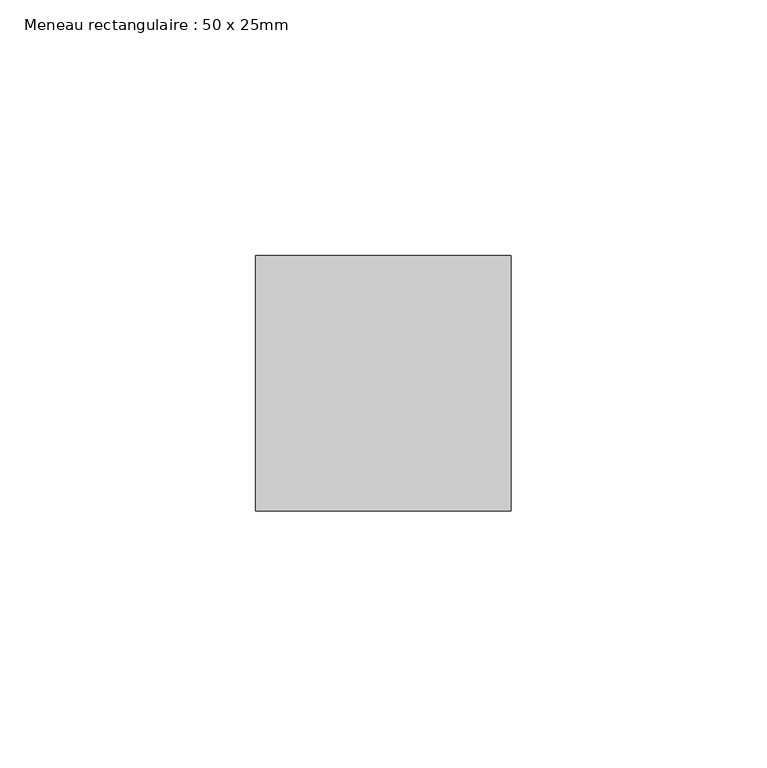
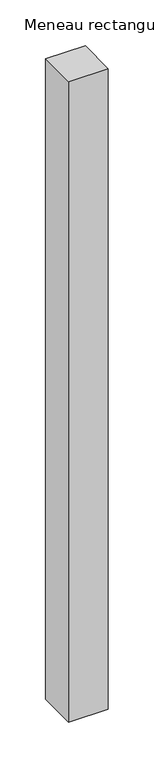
"""IFC4 building model written with IfcOpenShell, lengths in millimetres: member geometry, Meneau rectangulaire : 50 x 25mm."""

from ifc_helpers import new_model, si_unit, frame, origin, place, context, project, spatial, polyline, outline, extrude, source, transform, mapped, element, save


def meneau_rectangulaire_50_x_25mm_d005d060(model_context):
    return source(origin(), model_context, "Body", "SweptSolid", [
        extrude(outline(polyline([(25.0, 0.0), (25.0, -50.0), (-25.0, -50.0), (-25.0, 0.0), (25.0, 0.0)])), frame((0.0, 0.0, -852.6085788), z_axis=(0.0, 0.0, 1.0), x_axis=(1.0, 0.0, 0.0)), (0.0, 0.0, 1.0), 852.6085788),
    ])


if __name__ == "__main__":
    model = new_model("IFC4")
    model_context = context("Model", 3, world=origin())
    ifc_project = project(units=[si_unit("LENGTHUNIT", "METRE", prefix="MILLI")], contexts=[model_context])
    site = spatial("IfcSite", under=ifc_project)
    building = spatial("IfcBuilding", under=site)
    placement = place(None, origin())
    meneau_rectangulaire_50_x_25mm_shape = meneau_rectangulaire_50_x_25mm_d005d060(model_context)
    element("IfcMember", 1, ObjectType="Meneau rectangulaire : 50 x 25mm", at=placement, inside=building, context=model_context, shape_type="MappedRepresentation", body=[
        mapped(meneau_rectangulaire_50_x_25mm_shape, transform((0.0, 0.0, 0.0), x_axis=(1.0, 0.0, 0.0), y_axis=(0.0, 1.0, 0.0), z_axis=(0.0, 0.0, 1.0))),
    ])
    save(model, "model.ifc")
